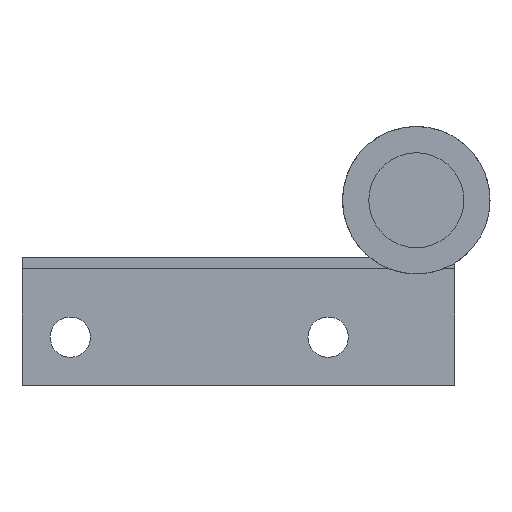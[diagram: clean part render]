
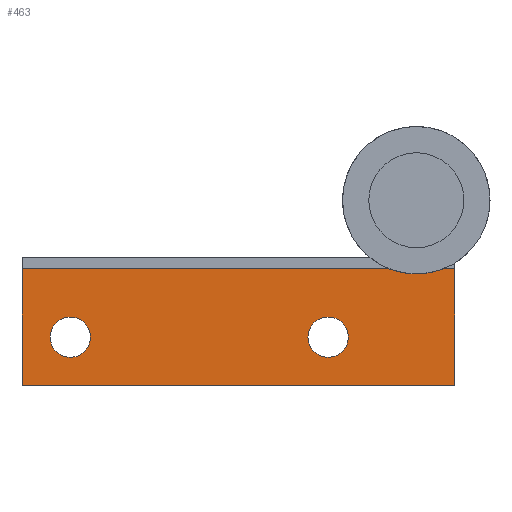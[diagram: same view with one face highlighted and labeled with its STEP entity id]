
A CAD part, front view. The second image highlights one B-rep face of the part: STEP entity #463.
In plain terms, the highlighted planar face has unit normal (0, -1, 0).
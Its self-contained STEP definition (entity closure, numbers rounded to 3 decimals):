
#49 = VERTEX_POINT ( 'NONE', #103 ) ;
#56 = VERTEX_POINT ( 'NONE', #110 ) ;
#57 = VERTEX_POINT ( 'NONE', #111 ) ;
#66 = VERTEX_POINT ( 'NONE', #120 ) ;
#67 = VERTEX_POINT ( 'NONE', #121 ) ;
#75 = VERTEX_POINT ( 'NONE', #129 ) ;
#80 = VERTEX_POINT ( 'NONE', #134 ) ;
#81 = VERTEX_POINT ( 'NONE', #135 ) ;
#103 = CARTESIAN_POINT ( 'NONE',  ( -13.45, 483.2, -17. ) ) ;
#110 = CARTESIAN_POINT ( 'NONE',  ( -45.45, 483.2, -17. ) ) ;
#111 = CARTESIAN_POINT ( 'NONE',  ( -8.45, 483.2, -17. ) ) ;
#120 = CARTESIAN_POINT ( 'NONE',  ( -48.95, 483.2, -8.5 ) ) ;
#121 = CARTESIAN_POINT ( 'NONE',  ( -48.95, 483.2, -23. ) ) ;
#129 = CARTESIAN_POINT ( 'NONE',  ( -40.45, 483.2, -17. ) ) ;
#134 = CARTESIAN_POINT ( 'NONE',  ( 4.75, 483.2, -8.5 ) ) ;
#135 = CARTESIAN_POINT ( 'NONE',  ( 4.75, 483.2, -23. ) ) ;
#150 = PLANE ( 'NONE',  #978 ) ;
#151 = CARTESIAN_POINT ( 'NONE',  ( 9.15, 483.2, -23. ) ) ;
#152 = DIRECTION ( 'NONE',  ( 0., 1., 0. ) ) ;
#153 = DIRECTION ( 'NONE',  ( 1., 0., 0. ) ) ;
#284 = CARTESIAN_POINT ( 'NONE',  ( -42.95, 483.2, -17. ) ) ;
#285 = DIRECTION ( 'NONE',  ( 0., 1., 0. ) ) ;
#286 = DIRECTION ( 'NONE',  ( 1., 0., 0. ) ) ;
#321 = CARTESIAN_POINT ( 'NONE',  ( -48.95, 483.2, -23. ) ) ;
#324 = DIRECTION ( 'NONE',  ( 0., 0., -1. ) ) ;
#379 = CARTESIAN_POINT ( 'NONE',  ( -10.95, 483.2, -17. ) ) ;
#383 = DIRECTION ( 'NONE',  ( 0., 1., 0. ) ) ;
#384 = DIRECTION ( 'NONE',  ( 1., 0., 0. ) ) ;
#399 = CARTESIAN_POINT ( 'NONE',  ( -10.95, 483.2, -17. ) ) ;
#408 = DIRECTION ( 'NONE',  ( 0., 1., 0. ) ) ;
#409 = DIRECTION ( 'NONE',  ( 1., 0., 0. ) ) ;
#410 = CARTESIAN_POINT ( 'NONE',  ( 4.75, 483.2, -23. ) ) ;
#411 = DIRECTION ( 'NONE',  ( 0., 0., -1. ) ) ;
#421 = CARTESIAN_POINT ( 'NONE',  ( -42.95, 483.2, -17. ) ) ;
#435 = DIRECTION ( 'NONE',  ( 0., 1., 0. ) ) ;
#436 = DIRECTION ( 'NONE',  ( 1., 0., 0. ) ) ;
#451 = DIRECTION ( 'NONE',  ( -1., 0., 0. ) ) ;
#455 = CARTESIAN_POINT ( 'NONE',  ( 9.15, 483.2, -23. ) ) ;
#456 = CARTESIAN_POINT ( 'NONE',  ( 9.15, 483.2, -8.5 ) ) ;
#458 = DIRECTION ( 'NONE',  ( -1., 0., 0. ) ) ;
#463 = ADVANCED_FACE ( 'NONE', ( #915, #840, #685 ), #150, .F. ) ;
#508 = AXIS2_PLACEMENT_3D ( 'NONE', #421, #435, #436 ) ;
#518 = AXIS2_PLACEMENT_3D ( 'NONE', #284, #285, #286 ) ;
#531 = AXIS2_PLACEMENT_3D ( 'NONE', #399, #408, #409 ) ;
#533 = AXIS2_PLACEMENT_3D ( 'NONE', #379, #383, #384 ) ;
#556 = ORIENTED_EDGE ( 'NONE', *, *, #1012, .T. ) ;
#558 = ORIENTED_EDGE ( 'NONE', *, *, #1061, .T. ) ;
#577 = ORIENTED_EDGE ( 'NONE', *, *, #1038, .T. ) ;
#639 = CIRCLE ( 'NONE', #508, 2.5 ) ;
#641 = LINE ( 'NONE', #455, #643 ) ;
#642 = LINE ( 'NONE', #456, #650 ) ;
#643 = VECTOR ( 'NONE', #458, 1000. ) ;
#650 = VECTOR ( 'NONE', #451, 1000. ) ;
#685 = FACE_OUTER_BOUND ( 'NONE', #922, .T. ) ;
#721 = ORIENTED_EDGE ( 'NONE', *, *, #1049, .T. ) ;
#723 = EDGE_LOOP ( 'NONE', ( #724, #558 ) ) ;
#724 = ORIENTED_EDGE ( 'NONE', *, *, #995, .T. ) ;
#784 = VECTOR ( 'NONE', #411, 1000. ) ;
#789 = LINE ( 'NONE', #410, #784 ) ;
#793 = CIRCLE ( 'NONE', #531, 2.5 ) ;
#797 = CIRCLE ( 'NONE', #533, 2.5 ) ;
#813 = VECTOR ( 'NONE', #324, 1000. ) ;
#823 = LINE ( 'NONE', #321, #813 ) ;
#840 = FACE_BOUND ( 'NONE', #723, .T. ) ;
#849 = ORIENTED_EDGE ( 'NONE', *, *, #1068, .F. ) ;
#850 = ORIENTED_EDGE ( 'NONE', *, *, #1050, .F. ) ;
#854 = ORIENTED_EDGE ( 'NONE', *, *, #1066, .T. ) ;
#903 = CIRCLE ( 'NONE', #518, 2.5 ) ;
#915 = FACE_BOUND ( 'NONE', #935, .T. ) ;
#922 = EDGE_LOOP ( 'NONE', ( #854, #556, #849, #850 ) ) ;
#935 = EDGE_LOOP ( 'NONE', ( #721, #577 ) ) ;
#978 = AXIS2_PLACEMENT_3D ( 'NONE', #151, #152, #153 ) ;
#995 = EDGE_CURVE ( 'NONE', #56, #75, #903, .T. ) ;
#1012 = EDGE_CURVE ( 'NONE', #66, #67, #823, .T. ) ;
#1038 = EDGE_CURVE ( 'NONE', #57, #49, #797, .T. ) ;
#1049 = EDGE_CURVE ( 'NONE', #49, #57, #793, .T. ) ;
#1050 = EDGE_CURVE ( 'NONE', #80, #81, #789, .T. ) ;
#1061 = EDGE_CURVE ( 'NONE', #75, #56, #639, .T. ) ;
#1066 = EDGE_CURVE ( 'NONE', #80, #66, #642, .T. ) ;
#1068 = EDGE_CURVE ( 'NONE', #81, #67, #641, .T. ) ;
